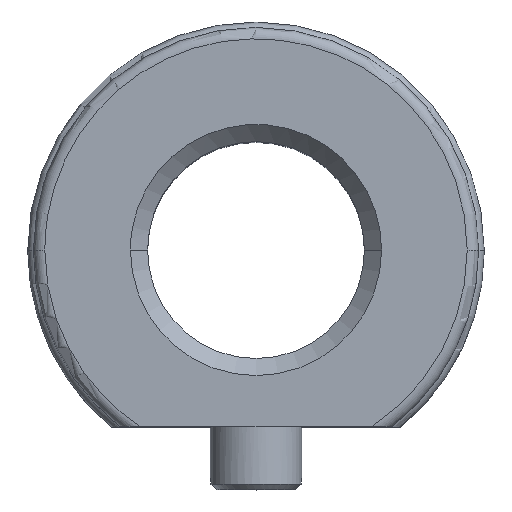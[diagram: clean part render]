
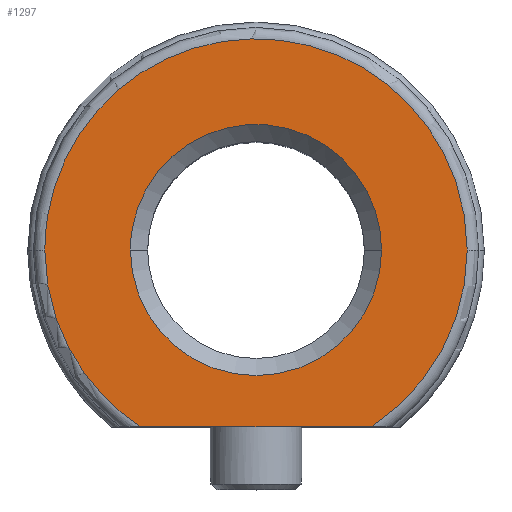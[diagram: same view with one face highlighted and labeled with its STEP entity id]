
A CAD part, top view. The second image highlights one B-rep face of the part: STEP entity #1297.
In plain terms, the highlighted planar face has unit normal (0, 0, 1).
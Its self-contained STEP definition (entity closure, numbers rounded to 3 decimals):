
#521=CARTESIAN_POINT('Vertex',(10.1,-15.5,20.)) ;
#524=CARTESIAN_POINT('Line Origine',(0.,-15.5,20.)) ;
#528=CARTESIAN_POINT('Vertex',(-10.1,-15.5,20.)) ;
#642=CARTESIAN_POINT('Vertex',(-11.,0.,20.)) ;
#645=CARTESIAN_POINT('Axis2P3D Location',(0.,0.,20.)) ;
#649=CARTESIAN_POINT('Vertex',(11.,0.,20.)) ;
#1199=CARTESIAN_POINT('Vertex',(18.5,0.,20.)) ;
#1202=CARTESIAN_POINT('Axis2P3D Location',(0.,0.,20.)) ;
#1214=CARTESIAN_POINT('Axis2P3D Location',(-11.,0.,20.)) ;
#1220=CARTESIAN_POINT('Control Point',(18.5,0.,20.)) ;
#1221=CARTESIAN_POINT('Control Point',(18.5,1.686,20.)) ;
#1222=CARTESIAN_POINT('Control Point',(18.308,3.371,20.)) ;
#1223=CARTESIAN_POINT('Control Point',(17.924,5.028,20.)) ;
#1224=CARTESIAN_POINT('Control Point',(16.785,8.224,20.)) ;
#1225=CARTESIAN_POINT('Control Point',(14.957,11.083,20.)) ;
#1226=CARTESIAN_POINT('Control Point',(13.883,12.402,20.)) ;
#1227=CARTESIAN_POINT('Control Point',(11.455,14.771,20.)) ;
#1228=CARTESIAN_POINT('Control Point',(8.555,16.534,20.)) ;
#1229=CARTESIAN_POINT('Control Point',(7.011,17.245,20.)) ;
#1230=CARTESIAN_POINT('Control Point',(3.787,18.304,20.)) ;
#1231=CARTESIAN_POINT('Control Point',(0.408,18.611,20.)) ;
#1232=CARTESIAN_POINT('Control Point',(-1.292,18.571,20.)) ;
#1233=CARTESIAN_POINT('Control Point',(-4.653,18.104,20.)) ;
#1234=CARTESIAN_POINT('Control Point',(-7.823,16.892,20.)) ;
#1235=CARTESIAN_POINT('Control Point',(-9.332,16.108,20.)) ;
#1236=CARTESIAN_POINT('Control Point',(-12.144,14.21,20.)) ;
#1237=CARTESIAN_POINT('Control Point',(-14.458,11.727,20.)) ;
#1238=CARTESIAN_POINT('Control Point',(-15.467,10.359,20.)) ;
#1239=CARTESIAN_POINT('Control Point',(-17.069,7.57,20.)) ;
#1240=CARTESIAN_POINT('Control Point',(-18.038,4.508,20.)) ;
#1241=CARTESIAN_POINT('Control Point',(-18.346,3.019,20.)) ;
#1242=CARTESIAN_POINT('Control Point',(-18.5,1.51,20.)) ;
#1243=CARTESIAN_POINT('Control Point',(-18.5,0.,20.)) ;
#1244=CARTESIAN_POINT('Vertex',(-18.5,0.,20.)) ;
#1248=CARTESIAN_POINT('Control Point',(-18.5,0.,20.)) ;
#1249=CARTESIAN_POINT('Control Point',(-18.5,-1.686,20.)) ;
#1250=CARTESIAN_POINT('Control Point',(-18.308,-3.371,20.)) ;
#1251=CARTESIAN_POINT('Control Point',(-17.924,-5.028,20.)) ;
#1252=CARTESIAN_POINT('Control Point',(-16.785,-8.224,20.)) ;
#1253=CARTESIAN_POINT('Control Point',(-14.957,-11.083,20.)) ;
#1254=CARTESIAN_POINT('Control Point',(-13.883,-12.402,20.)) ;
#1255=CARTESIAN_POINT('Control Point',(-12.45,-13.8,20.)) ;
#1256=CARTESIAN_POINT('Control Point',(-10.853,-14.987,20.)) ;
#1257=CARTESIAN_POINT('Control Point',(-10.605,-15.163,20.)) ;
#1258=CARTESIAN_POINT('Control Point',(-10.354,-15.334,20.)) ;
#1259=CARTESIAN_POINT('Control Point',(-10.1,-15.5,20.)) ;
#1268=CARTESIAN_POINT('Control Point',(11.,0.,20.)) ;
#1269=CARTESIAN_POINT('Control Point',(11.,1.137,20.)) ;
#1270=CARTESIAN_POINT('Control Point',(10.853,2.275,20.)) ;
#1271=CARTESIAN_POINT('Control Point',(10.559,3.387,20.)) ;
#1272=CARTESIAN_POINT('Control Point',(9.69,5.51,20.)) ;
#1273=CARTESIAN_POINT('Control Point',(8.31,7.342,20.)) ;
#1274=CARTESIAN_POINT('Control Point',(7.505,8.163,20.)) ;
#1275=CARTESIAN_POINT('Control Point',(5.701,9.579,20.)) ;
#1276=CARTESIAN_POINT('Control Point',(3.596,10.49,20.)) ;
#1277=CARTESIAN_POINT('Control Point',(2.49,10.806,20.)) ;
#1278=CARTESIAN_POINT('Control Point',(0.221,11.145,20.)) ;
#1279=CARTESIAN_POINT('Control Point',(-2.059,10.896,20.)) ;
#1280=CARTESIAN_POINT('Control Point',(-3.177,10.624,20.)) ;
#1281=CARTESIAN_POINT('Control Point',(-5.316,9.798,20.)) ;
#1282=CARTESIAN_POINT('Control Point',(-7.175,8.454,20.)) ;
#1283=CARTESIAN_POINT('Control Point',(-8.013,7.666,20.)) ;
#1284=CARTESIAN_POINT('Control Point',(-9.464,5.89,20.)) ;
#1285=CARTESIAN_POINT('Control Point',(-10.416,3.803,20.)) ;
#1286=CARTESIAN_POINT('Control Point',(-10.754,2.704,20.)) ;
#1287=CARTESIAN_POINT('Control Point',(-10.961,1.486,20.)) ;
#1288=CARTESIAN_POINT('Control Point',(-10.997,0.262,20.)) ;
#1289=CARTESIAN_POINT('Control Point',(-10.999,0.175,20.)) ;
#1290=CARTESIAN_POINT('Control Point',(-11.,0.087,20.)) ;
#1291=CARTESIAN_POINT('Control Point',(-11.,0.,20.)) ;
#525=DIRECTION('Vector Direction',(1.,0.,0.)) ;
#646=DIRECTION('Axis2P3D Direction',(0.,-0.,1.)) ;
#1203=DIRECTION('Axis2P3D Direction',(0.,-0.,1.)) ;
#1215=DIRECTION('Axis2P3D Direction',(0.,0.,-1.)) ;
#1216=DIRECTION('Axis2P3D XDirection',(-1.,0.,-0.)) ;
#647=AXIS2_PLACEMENT_3D('Circle Axis2P3D',#645,#646,$) ;
#1204=AXIS2_PLACEMENT_3D('Circle Axis2P3D',#1202,#1203,$) ;
#1217=AXIS2_PLACEMENT_3D('Plane Axis2P3D',#1214,#1215,#1216) ;
#1262=ORIENTED_EDGE('',*,*,#1206,.T.) ;
#1263=ORIENTED_EDGE('',*,*,#1246,.T.) ;
#1264=ORIENTED_EDGE('',*,*,#1260,.T.) ;
#1265=ORIENTED_EDGE('',*,*,#530,.T.) ;
#1294=ORIENTED_EDGE('',*,*,#1292,.F.) ;
#1295=ORIENTED_EDGE('',*,*,#651,.F.) ;
#1296=FACE_BOUND('',#1293,.T.) ;
#526=VECTOR('Line Direction',#525,1.) ;
#1297=ADVANCED_FACE('744-19 sol1',(#1266,#1296),#1218,.F.) ;
#1219=B_SPLINE_CURVE_WITH_KNOTS('',5,(#1220,#1221,#1222,#1223,#1224,#1225,#1226,#1227,#1228,#1229,#1230,#1231,#1232,#1233,#1234,#1235,#1236,#1237,#1238,#1239,#1240,#1241,#1242,#1243),.UNSPECIFIED.,.F.,.U.,(6,3,3,3,3,3,3,6),(0.,11.92,23.839,35.759,47.679,59.598,71.518,82.193),.UNSPECIFIED.) ;
#1247=B_SPLINE_CURVE_WITH_KNOTS('',5,(#1248,#1249,#1250,#1251,#1252,#1253,#1254,#1255,#1256,#1257,#1258,#1259),.UNSPECIFIED.,.F.,.U.,(6,3,3,6),(0.,11.92,23.839,25.987),.UNSPECIFIED.) ;
#1267=B_SPLINE_CURVE_WITH_KNOTS('',5,(#1268,#1269,#1270,#1271,#1272,#1273,#1274,#1275,#1276,#1277,#1278,#1279,#1280,#1281,#1282,#1283,#1284,#1285,#1286,#1287,#1288,#1289,#1290,#1291),.UNSPECIFIED.,.F.,.U.,(6,3,3,3,3,3,3,6),(0.,8.042,16.085,24.127,32.169,40.211,48.254,48.871),.UNSPECIFIED.) ;
#648=CIRCLE('generated circle',#647,11.) ;
#1205=CIRCLE('generated circle',#1204,18.5) ;
#530=EDGE_CURVE('',#529,#522,#527,.T.) ;
#651=EDGE_CURVE('',#643,#650,#648,.T.) ;
#1206=EDGE_CURVE('',#522,#1200,#1205,.T.) ;
#1246=EDGE_CURVE('',#1200,#1245,#1219,.T.) ;
#1260=EDGE_CURVE('',#1245,#529,#1247,.T.) ;
#1292=EDGE_CURVE('',#650,#643,#1267,.T.) ;
#1261=EDGE_LOOP('',(#1262,#1263,#1264,#1265)) ;
#1293=EDGE_LOOP('',(#1294,#1295)) ;
#1266=FACE_OUTER_BOUND('',#1261,.T.) ;
#527=LINE('Line',#524,#526) ;
#1218=PLANE('Plane',#1217) ;
#522=VERTEX_POINT('',#521) ;
#529=VERTEX_POINT('',#528) ;
#643=VERTEX_POINT('',#642) ;
#650=VERTEX_POINT('',#649) ;
#1200=VERTEX_POINT('',#1199) ;
#1245=VERTEX_POINT('',#1244) ;
